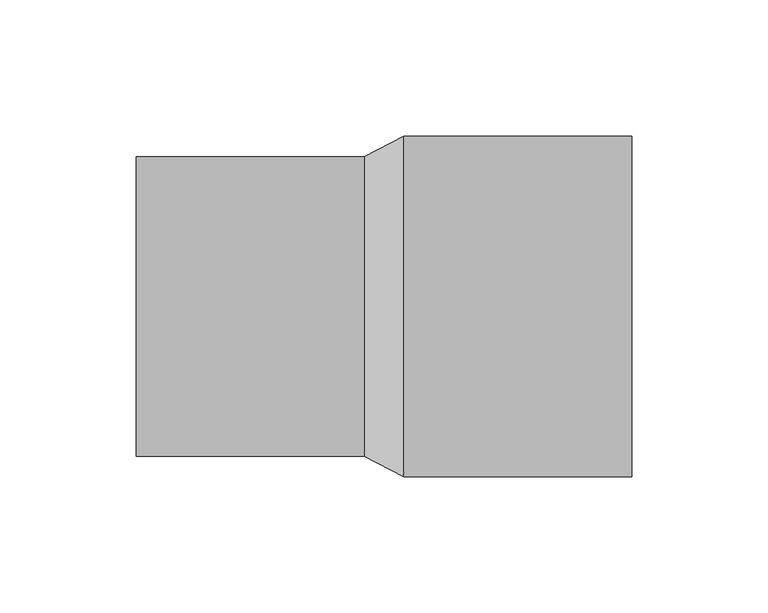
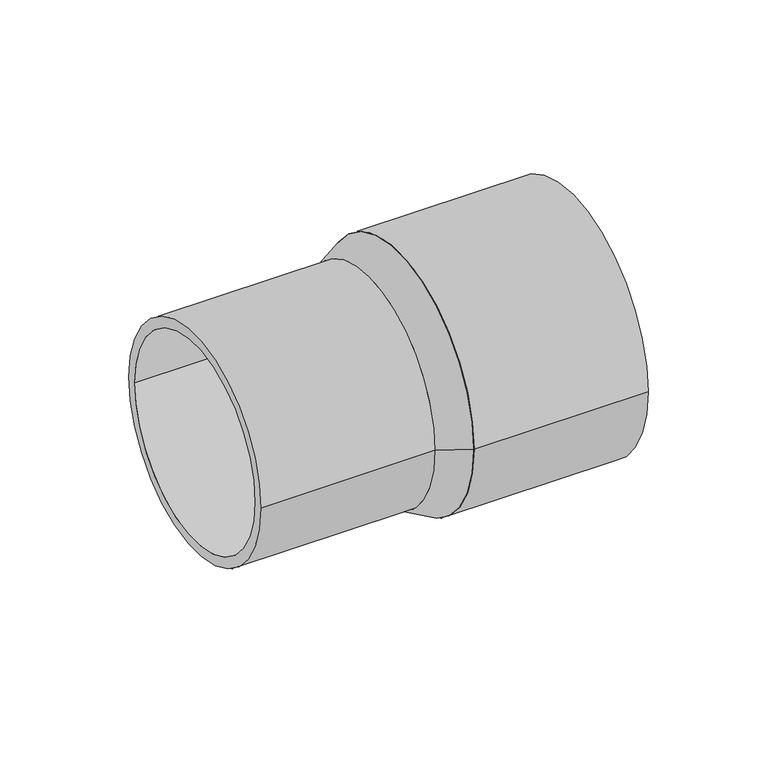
"""IFC4 building model written with IfcOpenShell, lengths in millimetres: pipe fitting geometry, EGB_VASEN_ PPR_Manguito reductor a tope WXRB110 : Manguito reductor a tope WXRB110."""

import ifcopenshell
import ifcopenshell.guid

model = None  # the IFC model being written
_history = None  # IfcOwnerHistory: only IFC2X3 demands one
_inside = {}  # id of a spatial element -> (the spatial element, [elements in it])
_under = {}  # id of a project, library or spatial element -> (it, [spatial elements below it])
_declared = {}  # id of a project -> (the project, [libraries it declares])
_typed = {}  # id of a type object -> (the type object, [elements of that type])
_made_of = {}  # id of a material, layer set ... -> (it, [elements and type objects made of it])


def new_model(schema):
    """Start an empty IFC model of exactly this schema.

    Asked for "IFC4X3", IfcOpenShell would pick the latest addendum, in which some entities
    have other attributes; the version numbers below select the first issue.
    IFC2X3 requires an IfcOwnerHistory on every rooted entity: one is made here for all.
    """
    global model, _history
    if schema == "IFC4X3":
        model = ifcopenshell.file(schema_version=(4, 3, 0, 0))
    else:
        model = ifcopenshell.file(schema=schema)
    _inside.clear()
    _under.clear()
    _declared.clear()
    _typed.clear()
    _made_of.clear()
    _history = None
    if model.schema == "IFC2X3":
        org = make("IfcOrganization", Name="unknown")
        user = make(
            "IfcPersonAndOrganization",
            ThePerson=make("IfcPerson", FamilyName="unknown"),
            TheOrganization=org,
        )
        app = make(
            "IfcApplication",
            ApplicationDeveloper=org,
            Version="unknown",
            ApplicationFullName="unknown",
            ApplicationIdentifier="unknown",
        )
        _history = make(
            "IfcOwnerHistory",
            OwningUser=user,
            OwningApplication=app,
            ChangeAction="ADDED",
            CreationDate=0,
        )
    return model


def make(cls, **values):
    """One entity of the class cls with the attributes given. An attribute that is None is left unset."""
    return model.create_entity(
        cls, **{name: value for name, value in values.items() if value is not None}
    )


def rooted(cls, **values):
    """An entity with a GlobalId (a new one), such as an element, a storey or a relation."""
    return make(cls, GlobalId=ifcopenshell.guid.new(), OwnerHistory=_history, **values)


def si_unit(unit_type, name, prefix=None):
    """IfcSIUnit, for example si_unit("LENGTHUNIT", "METRE", prefix="MILLI")."""
    return make("IfcSIUnit", UnitType=unit_type, Prefix=prefix, Name=name)


def assignment(units):
    """IfcUnitAssignment: the units of a project."""
    return None if units is None else make("IfcUnitAssignment", Units=units)


def point(xyz):
    """IfcCartesianPoint."""
    return None if xyz is None else make("IfcCartesianPoint", Coordinates=xyz)


def direction(xyz):
    """IfcDirection."""
    return None if xyz is None else make("IfcDirection", DirectionRatios=xyz)


def frame(location, z_axis=None, x_axis=None):
    """IfcAxis2Placement3D, a coordinate frame: its origin and axes. An axis left out is left unset."""
    return make(
        "IfcAxis2Placement3D",
        Location=point(location),
        Axis=direction(z_axis),
        RefDirection=direction(x_axis),
    )


def frame_2d(location, x_axis=None):
    """IfcAxis2Placement2D, a coordinate frame in the plane: its origin and x axis."""
    return make(
        "IfcAxis2Placement2D", Location=point(location), RefDirection=direction(x_axis)
    )


def origin():
    """The frame at (0, 0, 0) with its axes left unset."""
    return frame((0.0, 0.0, 0.0))


def origin_2d():
    """The frame at (0, 0) in the plane with its x axis left unset."""
    return frame_2d((0.0, 0.0))


def place(relative_to, where):
    """IfcLocalPlacement: puts the frame where relative to a parent placement (None: the world)."""
    return make(
        "IfcLocalPlacement", PlacementRelTo=relative_to, RelativePlacement=where
    )


def context(
    kind, dimensions, precision=None, world=None, true_north=None, identifier=None
):
    """IfcGeometricRepresentationContext, for example the 3D "Model" context."""
    return make(
        "IfcGeometricRepresentationContext",
        ContextIdentifier=identifier,
        ContextType=kind,
        CoordinateSpaceDimension=dimensions,
        Precision=precision,
        WorldCoordinateSystem=world,
        TrueNorth=true_north,
    )


def project(units=None, contexts=None):
    """IfcProject with its units and contexts."""
    return rooted(
        "IfcProject",
        Name="project",
        RepresentationContexts=contexts,
        UnitsInContext=assignment(units),
    )


def spatial(cls, under=None, at=None, **own):
    """A site, building, storey or space (cls), placed at a placement, below another one or the project."""
    s = rooted(cls, ObjectPlacement=at, **own)
    if under is not None:
        _under.setdefault(under.id(), (under, []))[1].append(s)
    return s


def polyline(points):
    """IfcPolyline through the points."""
    return make("IfcPolyline", Points=[point(p) for p in points])


def circle_curve(where, radius):
    """IfcCircle in the frame where."""
    return make("IfcCircle", Position=where, Radius=radius)


def trimmed(basis, trim1, trim2, sense, master):
    """IfcTrimmedCurve: the piece of a basis curve between two trims."""
    return make(
        "IfcTrimmedCurve",
        BasisCurve=basis,
        Trim1=trim1,
        Trim2=trim2,
        SenseAgreement=sense,
        MasterRepresentation=master,
    )


def segment(curve, same_sense, transition):
    """IfcCompositeCurveSegment."""
    return make(
        "IfcCompositeCurveSegment",
        Transition=transition,
        SameSense=same_sense,
        ParentCurve=curve,
    )


def composite_curve(segments, self_intersect=None):
    """IfcCompositeCurve: segments joined end to end."""
    return make("IfcCompositeCurve", Segments=segments, SelfIntersect=self_intersect)


def outline(outer, holes=None, kind="AREA"):
    """IfcArbitraryClosedProfileDef: a profile drawn as a closed curve; with holes, ...WithVoids."""
    if holes is None:
        return make("IfcArbitraryClosedProfileDef", ProfileType=kind, OuterCurve=outer)
    return make(
        "IfcArbitraryProfileDefWithVoids",
        ProfileType=kind,
        OuterCurve=outer,
        InnerCurves=holes,
    )


def extrude(swept, where, along, depth):
    """IfcExtrudedAreaSolid: the profile swept, set in the frame where, extruded along a direction by depth."""
    return make(
        "IfcExtrudedAreaSolid",
        SweptArea=swept,
        Position=where,
        ExtrudedDirection=direction(along),
        Depth=depth,
    )


def shape(context_of_items, identifier, shape_type, items):
    """IfcShapeRepresentation: the items that make up one representation, for example the "Body"."""
    return make(
        "IfcShapeRepresentation",
        ContextOfItems=context_of_items,
        RepresentationIdentifier=identifier,
        RepresentationType=shape_type,
        Items=items,
    )


def source(mapping_origin, context_of_items, identifier, shape_type, items):
    """IfcRepresentationMap: a shape defined once, which mapped items show again and again."""
    return make(
        "IfcRepresentationMap",
        MappingOrigin=mapping_origin,
        MappedRepresentation=shape(context_of_items, identifier, shape_type, items),
    )


def transform(
    local_origin,
    x_axis=None,
    y_axis=None,
    z_axis=None,
    scale=None,
    scale2=None,
    scale3=None,
    uniform=True,
):
    """IfcCartesianTransformationOperator3D, or its non-uniform kind. x_axis, y_axis, z_axis: its Axis1, 2, 3."""
    if uniform:
        return make(
            "IfcCartesianTransformationOperator3D",
            Axis1=direction(x_axis),
            Axis2=direction(y_axis),
            LocalOrigin=point(local_origin),
            Scale=scale,
            Axis3=direction(z_axis),
        )
    return make(
        "IfcCartesianTransformationOperator3DnonUniform",
        Axis1=direction(x_axis),
        Axis2=direction(y_axis),
        LocalOrigin=point(local_origin),
        Scale=scale,
        Axis3=direction(z_axis),
        Scale2=scale2,
        Scale3=scale3,
    )


def mapped(mapping_source, mapping_target):
    """IfcMappedItem: shows the shape of a source again, moved by a transform."""
    return make(
        "IfcMappedItem", MappingSource=mapping_source, MappingTarget=mapping_target
    )


def made_of(thing, what):
    """Note that an element or type object is made of a material, layer set ...; save() writes the relation."""
    if what is not None:
        _made_of.setdefault(what.id(), (what, []))[1].append(thing)
    return thing


def element(
    cls,
    number,
    at=None,
    inside=None,
    cuts=None,
    type_object=None,
    material=None,
    context=None,
    identifier="Body",
    shape_type=None,
    held_by="IfcProductDefinitionShape",
    body=None,
    shapes=None,
    **own,
):
    """One element of the class cls, such as IfcWall. Its Tag is "e" and its number.

    at: its placement. inside: the storey or other place that contains it. cuts: it is an
    opening in that element (IfcRelVoidsElement). A single representation is given by context,
    identifier, shape_type and body (its items); several are given by shapes. held_by: the class
    of the entity that holds the representations. save() writes the other relations.
    """
    e = rooted(cls, Tag="e%d" % number, ObjectPlacement=at, **own)
    if body is not None:
        shapes = [shape(context, identifier, shape_type, body)]
    if shapes is not None:
        e.Representation = make(held_by, Representations=shapes)
    if inside is not None:
        _inside.setdefault(inside.id(), (inside, []))[1].append(e)
    if cuts is not None:
        rooted(
            "IfcRelVoidsElement", RelatingBuildingElement=cuts, RelatedOpeningElement=e
        )
    if type_object is not None:
        _typed.setdefault(type_object.id(), (type_object, []))[1].append(e)
    return made_of(e, material)


def aggregate(whole, parts):
    """IfcRelAggregates: a whole, such as a stair, and the parts it consists of."""
    return rooted("IfcRelAggregates", RelatingObject=whole, RelatedObjects=parts)


def save(model, path):
    """Write the relations noted so far, then the file.

    IfcRelAggregates (storeys below a building ...), IfcRelContainedInSpatialStructure (elements
    in a storey), IfcRelDefinesByType, IfcRelAssociatesMaterial and IfcRelDeclares: one each for
    every whole, place, type object, material and project.
    """
    for whole, parts in _under.values():
        aggregate(whole, parts)
    for where, things in _inside.values():
        rooted(
            "IfcRelContainedInSpatialStructure",
            RelatedElements=things,
            RelatingStructure=where,
        )
    for kind, things in _typed.values():
        rooted("IfcRelDefinesByType", RelatedObjects=things, RelatingType=kind)
    for what, things in _made_of.values():
        rooted("IfcRelAssociatesMaterial", RelatedObjects=things, RelatingMaterial=what)
    for by, libraries in _declared.values():
        rooted("IfcRelDeclares", RelatingContext=by, RelatedDefinitions=libraries)
    model.write(path)


def plane_surface(at):
    """IfcPlane: the flat surface through the origin of the frame at, square to its z axis."""
    return make("IfcPlane", Position=at)


def revolved_surface(curve, axis_point, axis_direction):
    """IfcSurfaceOfRevolution: the curve turned about the line through axis_point along axis_direction."""
    return make(
        "IfcSurfaceOfRevolution",
        SweptCurve=make("IfcArbitraryOpenProfileDef", ProfileType="CURVE", Curve=curve),
        AxisPosition=make("IfcAxis1Placement", Location=point(axis_point), Axis=direction(axis_direction)),
    )


def advanced_brep(points, edges, surfaces, faces):
    """IfcAdvancedBrep: a solid bounded by faces that lie on surfaces and meet in shared edges.

    An edge is (start, end): straight between two places in points (the first is 0);
    or (start, end, curve); or (start, end, curve, False) where it runs against its curve.
    A face is (place in surfaces, loops), or (place, loops, False) where it looks against
    its surface's normal. A loop lists edges by number (the first is 1), with a minus sign
    where the edge is run from its end to its start. The first loop is the outer one.
    """
    corners = [point(p) for p in points]
    vertices = [make("IfcVertexPoint", VertexGeometry=c) for c in corners]
    made = []
    for start, end, *more in edges:
        made.append(
            make(
                "IfcEdgeCurve",
                EdgeStart=vertices[start],
                EdgeEnd=vertices[end],
                EdgeGeometry=more[0] if more else make("IfcPolyline", Points=[corners[start], corners[end]]),
                SameSense=more[1] if len(more) > 1 else True,
            )
        )
    hull = []
    for where, loops, *sense in faces:
        bounds = []
        for j, loop in enumerate(loops):
            ring = [make("IfcOrientedEdge", EdgeElement=made[abs(k) - 1], Orientation=k > 0) for k in loop]
            bounds.append(
                make(
                    "IfcFaceOuterBound" if j == 0 else "IfcFaceBound",
                    Bound=make("IfcEdgeLoop", EdgeList=ring),
                    Orientation=True,
                )
            )
        hull.append(make("IfcAdvancedFace", Bounds=bounds, FaceSurface=surfaces[where], SameSense=sense[0] if sense else True))
    return make("IfcAdvancedBrep", Outer=make("IfcClosedShell", CfsFaces=hull))


def pipe_fitting_a5ff1d57(model_context):
    return source(origin(), model_context, "Body", "SolidModel", [
        extrude(outline(composite_curve([segment(trimmed(circle_curve(origin_2d(), 62.5), [point((-62.5, 0.0))], [point((62.5, 0.0))], False, "CARTESIAN"), True, "CONTINUOUS"), segment(trimmed(circle_curve(origin_2d(), 62.5), [point((62.5, 0.0))], [point((-62.5, 0.0))], False, "CARTESIAN"), True, "CONTINUOUS")], self_intersect=False), holes=[composite_curve([segment(trimmed(circle_curve(origin_2d(), 57.5), [point((-57.5, 0.0))], [point((57.5, 0.0))], True, "CARTESIAN"), True, "CONTINUOUS"), segment(trimmed(circle_curve(origin_2d(), 57.5), [point((57.5, 0.0))], [point((-57.5, 0.0))], True, "CARTESIAN"), True, "CONTINUOUS")], self_intersect=False)]), frame((7.28, 0.0, 0.0), z_axis=(1.0, 0.0, 0.0), x_axis=(0.0, 1.0, 0.0)), (0.0, 0.0, 1.0), 83.72),
        extrude(outline(composite_curve([segment(trimmed(circle_curve(origin_2d(), 55.0), [point((-55.0, 0.0))], [point((55.0, 0.0))], False, "CARTESIAN"), True, "CONTINUOUS"), segment(trimmed(circle_curve(origin_2d(), 55.0), [point((55.0, 0.0))], [point((-55.0, 0.0))], False, "CARTESIAN"), True, "CONTINUOUS")], self_intersect=False), holes=[composite_curve([segment(trimmed(circle_curve(origin_2d(), 50.0), [point((-50.0, 0.0))], [point((50.0, 0.0))], True, "CARTESIAN"), True, "CONTINUOUS"), segment(trimmed(circle_curve(origin_2d(), 50.0), [point((50.0, 0.0))], [point((-50.0, 0.0))], True, "CARTESIAN"), True, "CONTINUOUS")], self_intersect=False)]), frame((-91.0, 0.0, 0.0), z_axis=(1.0, 0.0, 0.0), x_axis=(0.0, 1.0, 0.0)), (0.0, 0.0, 1.0), 83.72),
        advanced_brep(
        [(7.28, -62.5, 0.0), (7.28, 62.5, 0.0), (-7.28, -55.0, 0.0), (-7.28, 55.0, 0.0)],
        [
            (0, 1, circle_curve(frame((7.28, 0.0, 0.0), z_axis=(1.0, 0.0, 0.0), x_axis=(0.0, -1.0, 0.0)), 62.5)),
            (1, 0, circle_curve(frame((7.28, 0.0, 0.0), z_axis=(1.0, 0.0, 0.0), x_axis=(0.0, 1.0, 0.0)), 62.5)),
            (2, 3, circle_curve(frame((-7.28, 0.0, 0.0), z_axis=(-1.0, 0.0, 0.0), x_axis=(0.0, 1.0, 0.0)), 55.0)),
            (3, 2, circle_curve(frame((-7.28, 0.0, 0.0), z_axis=(-1.0, 0.0, 0.0), x_axis=(0.0, -1.0, 0.0)), 55.0)),
            (3, 1),
            (0, 2),
        ],
        [
            plane_surface(frame((7.28, 0.0, 0.0), z_axis=(1.0, 0.0, 0.0), x_axis=(0.0, 0.0, -1.0))),
            plane_surface(frame((-7.28, 0.0, 0.0), z_axis=(-1.0, 0.0, 0.0), x_axis=(0.0, 0.0, -1.0))),
            revolved_surface(polyline([(-7.280000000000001, 54.99999999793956, 0.0), (7.280000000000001, 62.5, 0.0)]), (-114.0533333, 0.0, 0.0), (1.0, 0.0, 0.0)),
            revolved_surface(polyline([(-7.280000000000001, -54.99999999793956, 0.0), (7.280000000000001, -62.5, 0.0)]), (-114.0533333, 0.0, 0.0), (1.0, 0.0, 0.0)),
        ],
        [
            (0, [[1, 2]]),
            (1, [[3, 4]]),
            (2, [[-4, 5, -1, 6]]),
            (3, [[-3, -6, -2, -5]]),
        ],
    ),
    ])


if __name__ == "__main__":
    model = new_model("IFC4")
    model_context = context("Model", 3, world=origin())
    ifc_project = project(units=[si_unit("LENGTHUNIT", "METRE", prefix="MILLI")], contexts=[model_context])
    site = spatial("IfcSite", under=ifc_project)
    building = spatial("IfcBuilding", under=site)
    placement = place(None, origin())
    pipe_fitting_shape = pipe_fitting_a5ff1d57(model_context)
    element("IfcPipeFitting", 1, ObjectType="EGB_VASEN_ PPR_Manguito reductor a tope WXRB110 : Manguito reductor a tope WXRB110", at=placement, inside=building, context=model_context, shape_type="MappedRepresentation", body=[
        mapped(pipe_fitting_shape, transform((0.0, 0.0, 0.0), x_axis=(1.0, 0.0, 0.0), y_axis=(0.0, 1.0, 0.0), z_axis=(0.0, 0.0, 1.0))),
    ])
    save(model, "model.ifc")
